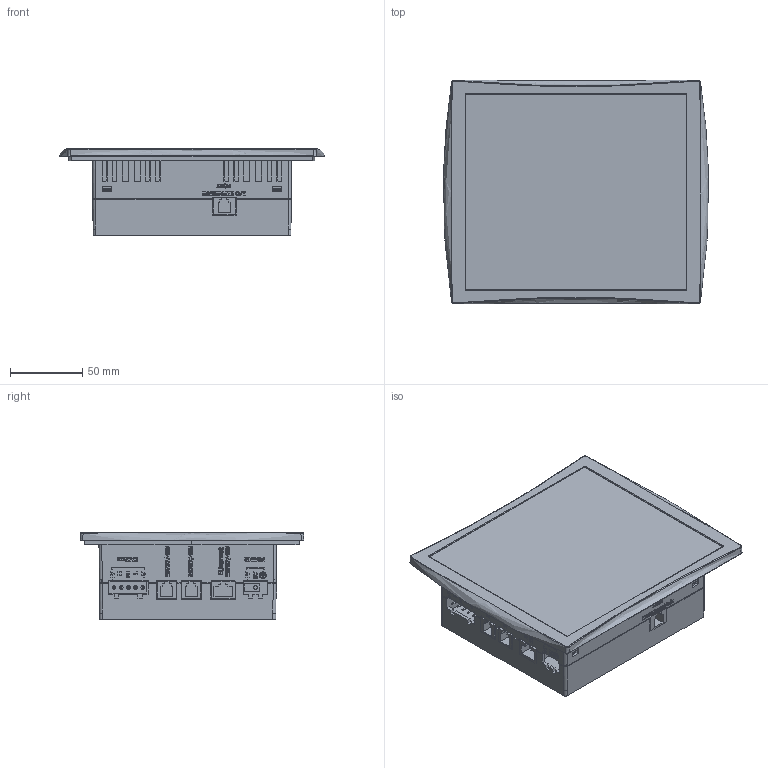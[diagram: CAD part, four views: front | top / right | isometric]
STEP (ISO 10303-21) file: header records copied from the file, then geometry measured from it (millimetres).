
FILE_DESCRIPTION (( 'STEP AP203' ), '1' );
FILE_NAME ('V230-13-B20B.STEP', '2012-06-27T14:02:50', ( 'unitronics' ), ( 'unitronics' ), 'SwSTEP 2.0', 'SolidWorks 2011', '' );
FILE_SCHEMA (( 'CONFIG_CONTROL_DESIGN' ));
Products named in the file (1): V230-13-B20B
Bounding box: 183.63 x 155 x 60.22 mm (x, y, z)
Volume: 967963.6 mm3; surface area: 155588 mm2
Topology: 2 solids, 7 shells, 2389 faces, 6538 edges, 4284 vertices
Faces by surface type: plane 1499, bspline 614, cylinder 190, cone 42, torus 32, sphere 12
Entity records: 100373 total; most frequent: CARTESIAN_POINT 44020, ORIENTED_EDGE 13068, DIRECTION 9114, EDGE_CURVE 6534, VECTOR 4782, LINE 4782, VERTEX_POINT 4284, EDGE_LOOP 2590
